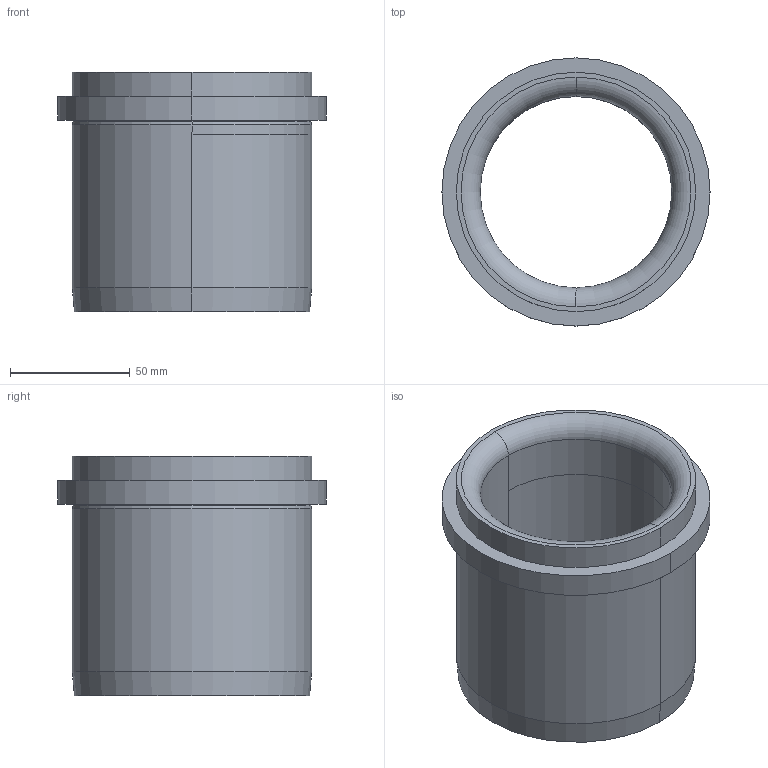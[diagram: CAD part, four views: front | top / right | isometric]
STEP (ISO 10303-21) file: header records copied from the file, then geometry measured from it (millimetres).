
FILE_DESCRIPTION(('CATIA V5 STEP'),'2;1');
FILE_NAME('\\GSBFILE\data\URETIM\3D DATALAR\Step Dosyaları\Kılavuz Elemanları\G211-02-080-100.stp','2020-07-07T05:44:38+00:00',('none'),('none'),'CATIA Version 5-6 Release 2019 SP3','CATIA V5 STEP AP203 v1','none');
FILE_SCHEMA(('CONFIG_CONTROL_DESIGN'));
Length unit declared in the file: millimetre
Products named in the file (1): Part1
Bounding box: 112 x 112 x 100 mm (x, y, z)
Volume: 297475 mm3; surface area: 65473.5 mm2
Topology: 1 solids, 1 shells, 31 faces, 66 edges, 39 vertices
Faces by surface type: cylinder 13, torus 8, cone 6, plane 4
Entity records: 849 total; most frequent: CARTESIAN_POINT 187, ORIENTED_EDGE 132, DIRECTION 105, EDGE_CURVE 66, AXIS2_PLACEMENT_3D 63, CIRCLE 41, VERTEX_POINT 39, EDGE_LOOP 35
